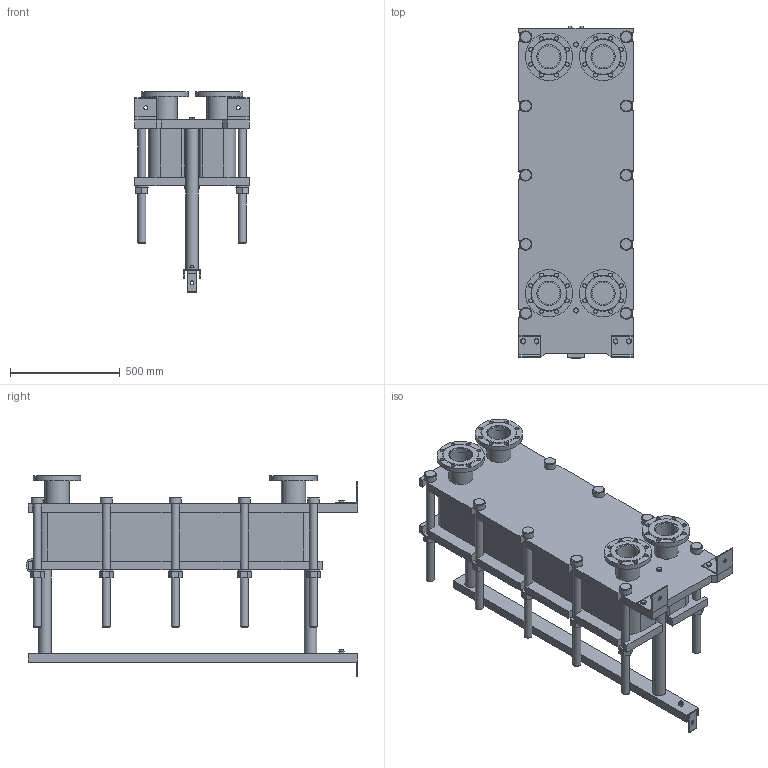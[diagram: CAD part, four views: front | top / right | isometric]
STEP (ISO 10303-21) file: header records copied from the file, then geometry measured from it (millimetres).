
FILE_DESCRIPTION(/* description */ (''),/* implementation_level */ '2;1');
FILE_NAME(/* name */ 'C:\Users\zhuro\Desktop\ENCO\TO\ЭН-04\ЭН-0,5-04-64-1.stp',/* time_stamp */ '2022-06-06T10:50:00+03:00',/* author */ ('zhuro'),/* organization */ (''),/* preprocessor_version */ 'ST-DEVELOPER v18.1',/* originating_system */ 'Autodesk Inventor 2022',/* authorisation */ '');
FILE_SCHEMA (('AUTOMOTIVE_DESIGN { 1 0 10303 214 3 1 1 }'));
Length unit declared in the file: millimetre
Products named in the file (1): ЭН-0,5-04-64-1
Bounding box: 520 x 1510 x 917 mm (x, y, z)
Volume: 179614051.3 mm3; surface area: 7563618.5 mm2
Topology: 45 solids, 45 shells, 668 faces, 1611 edges, 1048 vertices
Faces by surface type: plane 457, cylinder 166, cone 39, torus 6
Full cylindrical faces by diameter (mm): 8 x4, 10 x2, 16 x8, 18 x35, 36 x25, 40 x2, 42 x1, 45 x4, 54 x10, 57 x2, 60 x10, 68 x2, 100 x4, 110 x8, 215 x4
Entity records: 23607 total; most frequent: CARTESIAN_POINT 7348, DIRECTION 3371, ORIENTED_EDGE 3142, EDGE_CURVE 1571, AXIS2_PLACEMENT_3D 1199, VERTEX_POINT 1044, LINE 973, VECTOR 973
